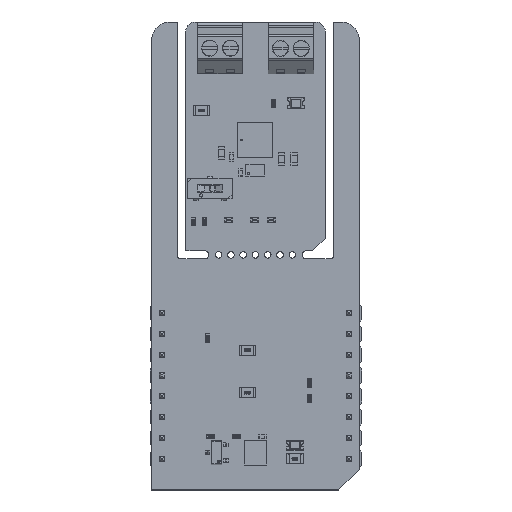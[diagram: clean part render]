
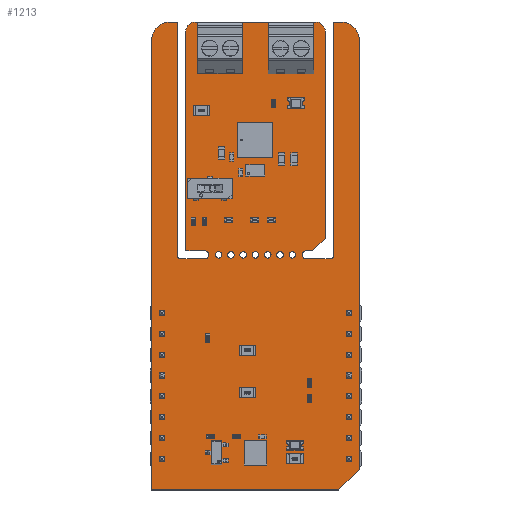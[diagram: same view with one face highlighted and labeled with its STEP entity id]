
A CAD part, top view. The second image highlights one B-rep face of the part: STEP entity #1213.
In plain terms, the highlighted planar face has unit normal (0, 0, 1).
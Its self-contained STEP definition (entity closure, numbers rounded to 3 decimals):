
#176 = VERTEX_POINT('',#177);
#177 = CARTESIAN_POINT('',(1.905,24.8,1.59));
#183 = EDGE_CURVE('',#176,#184,#186,.T.);
#184 = VERTEX_POINT('',#185);
#185 = CARTESIAN_POINT('',(2.305,24.4,1.59));
#186 = CIRCLE('',#187,0.399);
#187 = AXIS2_PLACEMENT_3D('',#188,#189,#190);
#188 = CARTESIAN_POINT('',(2.304,24.799,1.59));
#189 = DIRECTION('',(0.,0.,1.));
#190 = DIRECTION('',(-1.,0.001,0.));
#216 = EDGE_CURVE('',#184,#217,#219,.T.);
#217 = VERTEX_POINT('',#218);
#218 = CARTESIAN_POINT('',(5.23,24.4,1.59));
#219 = LINE('',#220,#221);
#220 = CARTESIAN_POINT('',(2.305,24.4,1.59));
#221 = VECTOR('',#222,1.);
#222 = DIRECTION('',(1.,0.,0.));
#247 = EDGE_CURVE('',#217,#248,#250,.T.);
#248 = VERTEX_POINT('',#249);
#249 = CARTESIAN_POINT('',(5.23,25.4,1.59));
#250 = CIRCLE('',#251,0.5);
#251 = AXIS2_PLACEMENT_3D('',#252,#253,#254);
#252 = CARTESIAN_POINT('',(5.23,24.9,1.59));
#253 = DIRECTION('',(0.,0.,1.));
#254 = DIRECTION('',(-0.,-1.,0.));
#280 = EDGE_CURVE('',#248,#281,#283,.T.);
#281 = VERTEX_POINT('',#282);
#282 = CARTESIAN_POINT('',(2.921,25.4,1.59));
#283 = LINE('',#284,#285);
#284 = CARTESIAN_POINT('',(5.23,25.4,1.59));
#285 = VECTOR('',#286,1.);
#286 = DIRECTION('',(-1.,0.,0.));
#311 = EDGE_CURVE('',#281,#312,#314,.T.);
#312 = VERTEX_POINT('',#313);
#313 = CARTESIAN_POINT('',(2.921,52.197,1.59));
#314 = LINE('',#315,#316);
#315 = CARTESIAN_POINT('',(2.921,25.4,1.59));
#316 = VECTOR('',#317,1.);
#317 = DIRECTION('',(0.,1.,0.));
#342 = EDGE_CURVE('',#312,#343,#345,.T.);
#343 = VERTEX_POINT('',#344);
#344 = CARTESIAN_POINT('',(4.064,53.34,1.59));
#345 = CIRCLE('',#346,1.144);
#346 = AXIS2_PLACEMENT_3D('',#347,#348,#349);
#347 = CARTESIAN_POINT('',(4.065,52.196,1.59));
#348 = DIRECTION('',(0.,0.,-1.));
#349 = DIRECTION('',(-1.,0.001,0.));
#375 = EDGE_CURVE('',#343,#376,#378,.T.);
#376 = VERTEX_POINT('',#377);
#377 = CARTESIAN_POINT('',(18.796,53.34,1.59));
#378 = LINE('',#379,#380);
#379 = CARTESIAN_POINT('',(4.064,53.34,1.59));
#380 = VECTOR('',#381,1.);
#381 = DIRECTION('',(1.,0.,0.));
#406 = EDGE_CURVE('',#376,#407,#409,.T.);
#407 = VERTEX_POINT('',#408);
#408 = CARTESIAN_POINT('',(19.939,52.197,1.59));
#409 = CIRCLE('',#410,1.144);
#410 = AXIS2_PLACEMENT_3D('',#411,#412,#413);
#411 = CARTESIAN_POINT('',(18.795,52.196,1.59));
#412 = DIRECTION('',(0.,0.,-1.));
#413 = DIRECTION('',(0.001,1.,0.));
#439 = EDGE_CURVE('',#407,#440,#442,.T.);
#440 = VERTEX_POINT('',#441);
#441 = CARTESIAN_POINT('',(19.939,26.924,1.59));
#442 = LINE('',#443,#444);
#443 = CARTESIAN_POINT('',(19.939,52.197,1.59));
#444 = VECTOR('',#445,1.);
#445 = DIRECTION('',(0.,-1.,0.));
#470 = EDGE_CURVE('',#440,#471,#473,.T.);
#471 = VERTEX_POINT('',#472);
#472 = CARTESIAN_POINT('',(18.415,25.4,1.59));
#473 = LINE('',#474,#475);
#474 = CARTESIAN_POINT('',(19.939,26.924,1.59));
#475 = VECTOR('',#476,1.);
#476 = DIRECTION('',(-0.707,-0.707,0.));
#501 = EDGE_CURVE('',#471,#502,#504,.T.);
#502 = VERTEX_POINT('',#503);
#503 = CARTESIAN_POINT('',(17.63,25.4,1.59));
#504 = LINE('',#505,#506);
#505 = CARTESIAN_POINT('',(18.415,25.4,1.59));
#506 = VECTOR('',#507,1.);
#507 = DIRECTION('',(-1.,0.,0.));
#532 = EDGE_CURVE('',#502,#533,#535,.T.);
#533 = VERTEX_POINT('',#534);
#534 = CARTESIAN_POINT('',(17.63,24.4,1.59));
#535 = CIRCLE('',#536,0.5);
#536 = AXIS2_PLACEMENT_3D('',#537,#538,#539);
#537 = CARTESIAN_POINT('',(17.63,24.9,1.59));
#538 = DIRECTION('',(0.,-0.,1.));
#539 = DIRECTION('',(0.,1.,0.));
#565 = EDGE_CURVE('',#533,#566,#568,.T.);
#566 = VERTEX_POINT('',#567);
#567 = CARTESIAN_POINT('',(20.555,24.4,1.59));
#568 = LINE('',#569,#570);
#569 = CARTESIAN_POINT('',(17.63,24.4,1.59));
#570 = VECTOR('',#571,1.);
#571 = DIRECTION('',(1.,0.,0.));
#596 = EDGE_CURVE('',#566,#597,#599,.T.);
#597 = VERTEX_POINT('',#598);
#598 = CARTESIAN_POINT('',(20.955,24.8,1.59));
#599 = CIRCLE('',#600,0.399);
#600 = AXIS2_PLACEMENT_3D('',#601,#602,#603);
#601 = CARTESIAN_POINT('',(20.556,24.799,1.59));
#602 = DIRECTION('',(0.,0.,1.));
#603 = DIRECTION('',(-0.001,-1.,0.));
#629 = EDGE_CURVE('',#597,#630,#632,.T.);
#630 = VERTEX_POINT('',#631);
#631 = CARTESIAN_POINT('',(20.955,53.34,1.59));
#632 = LINE('',#633,#634);
#633 = CARTESIAN_POINT('',(20.955,24.8,1.59));
#634 = VECTOR('',#635,1.);
#635 = DIRECTION('',(0.,1.,0.));
#660 = EDGE_CURVE('',#630,#661,#663,.T.);
#661 = VERTEX_POINT('',#662);
#662 = CARTESIAN_POINT('',(21.844,53.34,1.59));
#663 = LINE('',#664,#665);
#664 = CARTESIAN_POINT('',(20.955,53.34,1.59));
#665 = VECTOR('',#666,1.);
#666 = DIRECTION('',(1.,0.,0.));
#691 = EDGE_CURVE('',#661,#692,#694,.T.);
#692 = VERTEX_POINT('',#693);
#693 = CARTESIAN_POINT('',(24.13,51.054,1.59));
#694 = CIRCLE('',#695,2.288);
#695 = AXIS2_PLACEMENT_3D('',#696,#697,#698);
#696 = CARTESIAN_POINT('',(21.842,51.052,1.59));
#697 = DIRECTION('',(0.,0.,-1.));
#698 = DIRECTION('',(0.001,1.,0.));
#724 = EDGE_CURVE('',#692,#725,#727,.T.);
#725 = VERTEX_POINT('',#726);
#726 = CARTESIAN_POINT('',(24.13,-1.27,1.59));
#727 = LINE('',#728,#729);
#728 = CARTESIAN_POINT('',(24.13,51.054,1.59));
#729 = VECTOR('',#730,1.);
#730 = DIRECTION('',(0.,-1.,0.));
#755 = EDGE_CURVE('',#725,#756,#758,.T.);
#756 = VERTEX_POINT('',#757);
#757 = CARTESIAN_POINT('',(21.59,-3.81,1.59));
#758 = LINE('',#759,#760);
#759 = CARTESIAN_POINT('',(24.13,-1.27,1.59));
#760 = VECTOR('',#761,1.);
#761 = DIRECTION('',(-0.707,-0.707,0.));
#786 = EDGE_CURVE('',#756,#787,#789,.T.);
#787 = VERTEX_POINT('',#788);
#788 = CARTESIAN_POINT('',(-1.27,-3.81,1.59));
#789 = LINE('',#790,#791);
#790 = CARTESIAN_POINT('',(21.59,-3.81,1.59));
#791 = VECTOR('',#792,1.);
#792 = DIRECTION('',(-1.,0.,0.));
#817 = EDGE_CURVE('',#787,#818,#820,.T.);
#818 = VERTEX_POINT('',#819);
#819 = CARTESIAN_POINT('',(-1.27,51.054,1.59));
#820 = LINE('',#821,#822);
#821 = CARTESIAN_POINT('',(-1.27,-3.81,1.59));
#822 = VECTOR('',#823,1.);
#823 = DIRECTION('',(0.,1.,0.));
#848 = EDGE_CURVE('',#818,#849,#851,.T.);
#849 = VERTEX_POINT('',#850);
#850 = CARTESIAN_POINT('',(1.016,53.34,1.59));
#851 = CIRCLE('',#852,2.288);
#852 = AXIS2_PLACEMENT_3D('',#853,#854,#855);
#853 = CARTESIAN_POINT('',(1.018,51.052,1.59));
#854 = DIRECTION('',(0.,0.,-1.));
#855 = DIRECTION('',(-1.,0.001,0.));
#881 = EDGE_CURVE('',#849,#882,#884,.T.);
#882 = VERTEX_POINT('',#883);
#883 = CARTESIAN_POINT('',(1.905,53.34,1.59));
#884 = LINE('',#885,#886);
#885 = CARTESIAN_POINT('',(1.016,53.34,1.59));
#886 = VECTOR('',#887,1.);
#887 = DIRECTION('',(1.,0.,0.));
#912 = EDGE_CURVE('',#882,#176,#913,.T.);
#913 = LINE('',#914,#915);
#914 = CARTESIAN_POINT('',(1.905,53.34,1.59));
#915 = VECTOR('',#916,1.);
#916 = DIRECTION('',(0.,-1.,0.));
#936 = VERTEX_POINT('',#937);
#937 = CARTESIAN_POINT('',(7.33,24.9,1.59));
#943 = EDGE_CURVE('',#936,#936,#944,.T.);
#944 = CIRCLE('',#945,0.4);
#945 = AXIS2_PLACEMENT_3D('',#946,#947,#948);
#946 = CARTESIAN_POINT('',(6.93,24.9,1.59));
#947 = DIRECTION('',(0.,0.,1.));
#948 = DIRECTION('',(1.,0.,-0.));
#969 = VERTEX_POINT('',#970);
#970 = CARTESIAN_POINT('',(8.83,24.9,1.59));
#976 = EDGE_CURVE('',#969,#969,#977,.T.);
#977 = CIRCLE('',#978,0.4);
#978 = AXIS2_PLACEMENT_3D('',#979,#980,#981);
#979 = CARTESIAN_POINT('',(8.43,24.9,1.59));
#980 = DIRECTION('',(0.,0.,1.));
#981 = DIRECTION('',(1.,0.,-0.));
#1002 = VERTEX_POINT('',#1003);
#1003 = CARTESIAN_POINT('',(10.33,24.9,1.59));
#1009 = EDGE_CURVE('',#1002,#1002,#1010,.T.);
#1010 = CIRCLE('',#1011,0.4);
#1011 = AXIS2_PLACEMENT_3D('',#1012,#1013,#1014);
#1012 = CARTESIAN_POINT('',(9.93,24.9,1.59));
#1013 = DIRECTION('',(0.,0.,1.));
#1014 = DIRECTION('',(1.,0.,-0.));
#1035 = VERTEX_POINT('',#1036);
#1036 = CARTESIAN_POINT('',(14.83,24.9,1.59));
#1042 = EDGE_CURVE('',#1035,#1035,#1043,.T.);
#1043 = CIRCLE('',#1044,0.4);
#1044 = AXIS2_PLACEMENT_3D('',#1045,#1046,#1047);
#1045 = CARTESIAN_POINT('',(14.43,24.9,1.59));
#1046 = DIRECTION('',(0.,0.,1.));
#1047 = DIRECTION('',(1.,0.,-0.));
#1068 = VERTEX_POINT('',#1069);
#1069 = CARTESIAN_POINT('',(16.33,24.9,1.59));
#1075 = EDGE_CURVE('',#1068,#1068,#1076,.T.);
#1076 = CIRCLE('',#1077,0.4);
#1077 = AXIS2_PLACEMENT_3D('',#1078,#1079,#1080);
#1078 = CARTESIAN_POINT('',(15.93,24.9,1.59));
#1079 = DIRECTION('',(0.,0.,1.));
#1080 = DIRECTION('',(1.,0.,-0.));
#1101 = VERTEX_POINT('',#1102);
#1102 = CARTESIAN_POINT('',(11.83,24.9,1.59));
#1108 = EDGE_CURVE('',#1101,#1101,#1109,.T.);
#1109 = CIRCLE('',#1110,0.4);
#1110 = AXIS2_PLACEMENT_3D('',#1111,#1112,#1113);
#1111 = CARTESIAN_POINT('',(11.43,24.9,1.59));
#1112 = DIRECTION('',(0.,0.,1.));
#1113 = DIRECTION('',(1.,0.,-0.));
#1134 = VERTEX_POINT('',#1135);
#1135 = CARTESIAN_POINT('',(13.33,24.9,1.59));
#1141 = EDGE_CURVE('',#1134,#1134,#1142,.T.);
#1142 = CIRCLE('',#1143,0.4);
#1143 = AXIS2_PLACEMENT_3D('',#1144,#1145,#1146);
#1144 = CARTESIAN_POINT('',(12.93,24.9,1.59));
#1145 = DIRECTION('',(0.,0.,1.));
#1146 = DIRECTION('',(1.,0.,-0.));
#1213 = ADVANCED_FACE('',(#1214,#1240,#1243,#1246,#1249,#1252,#1255,
    #1258),#1261,.F.);
#1214 = FACE_BOUND('',#1215,.F.);
#1215 = EDGE_LOOP('',(#1216,#1217,#1218,#1219,#1220,#1221,#1222,#1223,
    #1224,#1225,#1226,#1227,#1228,#1229,#1230,#1231,#1232,#1233,#1234,
    #1235,#1236,#1237,#1238,#1239));
#1216 = ORIENTED_EDGE('',*,*,#183,.T.);
#1217 = ORIENTED_EDGE('',*,*,#216,.T.);
#1218 = ORIENTED_EDGE('',*,*,#247,.T.);
#1219 = ORIENTED_EDGE('',*,*,#280,.T.);
#1220 = ORIENTED_EDGE('',*,*,#311,.T.);
#1221 = ORIENTED_EDGE('',*,*,#342,.T.);
#1222 = ORIENTED_EDGE('',*,*,#375,.T.);
#1223 = ORIENTED_EDGE('',*,*,#406,.T.);
#1224 = ORIENTED_EDGE('',*,*,#439,.T.);
#1225 = ORIENTED_EDGE('',*,*,#470,.T.);
#1226 = ORIENTED_EDGE('',*,*,#501,.T.);
#1227 = ORIENTED_EDGE('',*,*,#532,.T.);
#1228 = ORIENTED_EDGE('',*,*,#565,.T.);
#1229 = ORIENTED_EDGE('',*,*,#596,.T.);
#1230 = ORIENTED_EDGE('',*,*,#629,.T.);
#1231 = ORIENTED_EDGE('',*,*,#660,.T.);
#1232 = ORIENTED_EDGE('',*,*,#691,.T.);
#1233 = ORIENTED_EDGE('',*,*,#724,.T.);
#1234 = ORIENTED_EDGE('',*,*,#755,.T.);
#1235 = ORIENTED_EDGE('',*,*,#786,.T.);
#1236 = ORIENTED_EDGE('',*,*,#817,.T.);
#1237 = ORIENTED_EDGE('',*,*,#848,.T.);
#1238 = ORIENTED_EDGE('',*,*,#881,.T.);
#1239 = ORIENTED_EDGE('',*,*,#912,.T.);
#1240 = FACE_BOUND('',#1241,.F.);
#1241 = EDGE_LOOP('',(#1242));
#1242 = ORIENTED_EDGE('',*,*,#943,.T.);
#1243 = FACE_BOUND('',#1244,.F.);
#1244 = EDGE_LOOP('',(#1245));
#1245 = ORIENTED_EDGE('',*,*,#976,.T.);
#1246 = FACE_BOUND('',#1247,.F.);
#1247 = EDGE_LOOP('',(#1248));
#1248 = ORIENTED_EDGE('',*,*,#1009,.T.);
#1249 = FACE_BOUND('',#1250,.F.);
#1250 = EDGE_LOOP('',(#1251));
#1251 = ORIENTED_EDGE('',*,*,#1042,.T.);
#1252 = FACE_BOUND('',#1253,.F.);
#1253 = EDGE_LOOP('',(#1254));
#1254 = ORIENTED_EDGE('',*,*,#1075,.T.);
#1255 = FACE_BOUND('',#1256,.F.);
#1256 = EDGE_LOOP('',(#1257));
#1257 = ORIENTED_EDGE('',*,*,#1108,.T.);
#1258 = FACE_BOUND('',#1259,.F.);
#1259 = EDGE_LOOP('',(#1260));
#1260 = ORIENTED_EDGE('',*,*,#1141,.T.);
#1261 = PLANE('',#1262);
#1262 = AXIS2_PLACEMENT_3D('',#1263,#1264,#1265);
#1263 = CARTESIAN_POINT('',(11.331,30.13,1.59));
#1264 = DIRECTION('',(-0.,-0.,-1.));
#1265 = DIRECTION('',(-1.,0.,0.));
